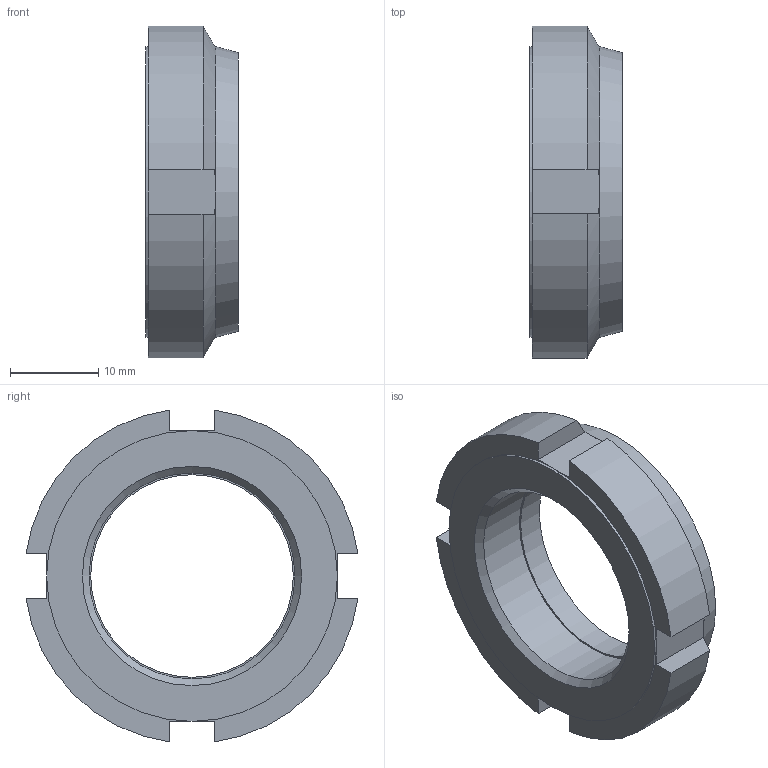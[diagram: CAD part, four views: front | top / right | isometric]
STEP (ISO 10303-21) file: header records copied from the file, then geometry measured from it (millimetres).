
FILE_DESCRIPTION( ( 'STEP AP203' ), '1' );
FILE_NAME( 'C:/Temp/Ganter_Step_05_03_2020/data/3_2/gn1804_1/Slotted locknut self-locking GN 1804.1-M25x1,5.stp', '2020-03-13T05:25:15', ( 'License CC BY-ND 4.0' ), ( 'CADENAS' ), ' ', 'PARTsolutions', ' ' );
FILE_SCHEMA( ( 'CONFIG_CONTROL_DESIGN' ) );
Length unit declared in the file: millimetre
Products named in the file (1): _Slotted locknut self-locking GN 1804.1-M25x1,5
Bounding box: 10.5 x 37.67 x 37.67 mm (x, y, z)
Volume: 5889.5 mm3; surface area: 3245.5 mm2
Topology: 1 solids, 1 shells, 34 faces, 79 edges, 49 vertices
Faces by surface type: plane 20, cylinder 8, cone 6
Full cylindrical faces by diameter (mm): 23 x1, 23.376 x1, 26 x1, 33 x1
Entity records: 994 total; most frequent: CARTESIAN_POINT 205, DIRECTION 152, ORIENTED_EDGE 146, EDGE_CURVE 73, AXIS2_PLACEMENT_3D 60, VERTEX_POINT 49, EDGE_LOOP 44, FACE_OUTER_BOUND 38
